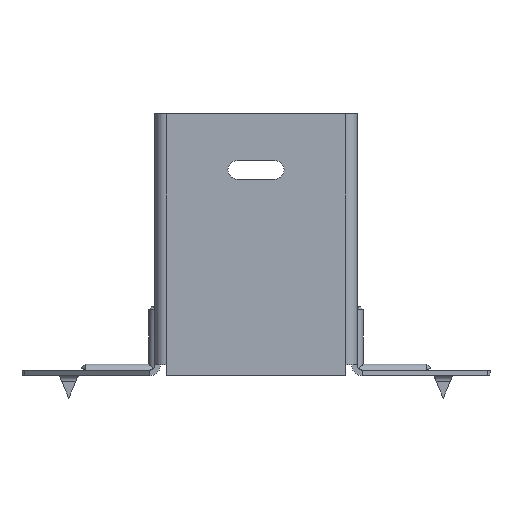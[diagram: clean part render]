
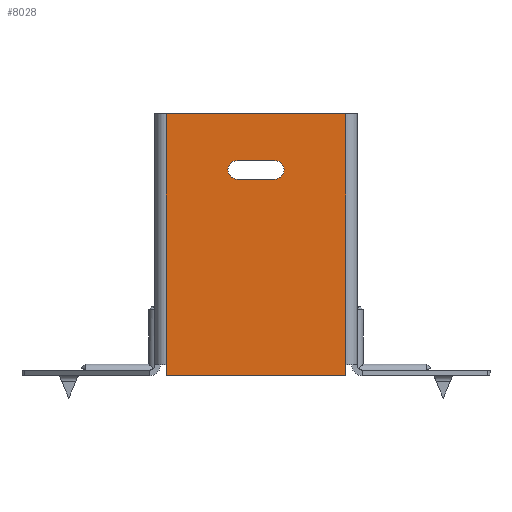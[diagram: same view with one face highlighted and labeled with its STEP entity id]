
A CAD part, front view. The second image highlights one B-rep face of the part: STEP entity #8028.
In plain terms, the highlighted planar face has unit normal (0, -1, 0).
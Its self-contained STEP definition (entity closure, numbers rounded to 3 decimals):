
#39 = CARTESIAN_POINT ( 'NONE',  ( -5., 0., -12.5 ) ) ;
#114 = DIRECTION ( 'NONE',  ( 0., 1., 0. ) ) ;
#612 = EDGE_CURVE ( 'NONE', #8655, #3666, #3308, .T. ) ;
#661 = ORIENTED_EDGE ( 'NONE', *, *, #5915, .T. ) ;
#686 = LINE ( 'NONE', #3303, #7141 ) ;
#738 = CARTESIAN_POINT ( 'NONE',  ( -24., 0., -67. ) ) ;
#818 = CIRCLE ( 'NONE', #2320, 2.5 ) ;
#905 = DIRECTION ( 'NONE',  ( 0., 0., 1. ) ) ;
#1024 = DIRECTION ( 'NONE',  ( -1., 0., 0. ) ) ;
#1336 = CARTESIAN_POINT ( 'NONE',  ( 24., 0., -70. ) ) ;
#1395 = DIRECTION ( 'NONE',  ( 0., 1., 0. ) ) ;
#1997 = VERTEX_POINT ( 'NONE', #5590 ) ;
#2102 = EDGE_CURVE ( 'NONE', #7877, #3666, #9401, .T. ) ;
#2320 = AXIS2_PLACEMENT_3D ( 'NONE', #5241, #7600, #3831 ) ;
#2349 = EDGE_CURVE ( 'NONE', #7877, #9394, #6104, .T. ) ;
#2351 = PLANE ( 'NONE',  #5216 ) ;
#2426 = CARTESIAN_POINT ( 'NONE',  ( 5., 0., -17.5 ) ) ;
#2452 = EDGE_CURVE ( 'NONE', #4969, #3529, #5746, .T. ) ;
#2479 = ORIENTED_EDGE ( 'NONE', *, *, #7053, .T. ) ;
#2520 = CARTESIAN_POINT ( 'NONE',  ( 5., 0., -12.5 ) ) ;
#2522 = ORIENTED_EDGE ( 'NONE', *, *, #3747, .T. ) ;
#2574 = VECTOR ( 'NONE', #1024, 1000. ) ;
#2668 = VECTOR ( 'NONE', #6858, 1000. ) ;
#2869 = ORIENTED_EDGE ( 'NONE', *, *, #5306, .T. ) ;
#2943 = CARTESIAN_POINT ( 'NONE',  ( 24., 0., -70. ) ) ;
#3034 = CARTESIAN_POINT ( 'NONE',  ( 24., 0., -70. ) ) ;
#3222 = FACE_OUTER_BOUND ( 'NONE', #9644, .T. ) ;
#3303 = CARTESIAN_POINT ( 'NONE',  ( -24., 0., 0. ) ) ;
#3308 = LINE ( 'NONE', #2943, #6620 ) ;
#3361 = CARTESIAN_POINT ( 'NONE',  ( -25.5, 0., -70. ) ) ;
#3364 = CARTESIAN_POINT ( 'NONE',  ( -25.5, 0., 0. ) ) ;
#3529 = VERTEX_POINT ( 'NONE', #9373 ) ;
#3557 = ORIENTED_EDGE ( 'NONE', *, *, #2102, .F. ) ;
#3606 = VERTEX_POINT ( 'NONE', #6435 ) ;
#3666 = VERTEX_POINT ( 'NONE', #8905 ) ;
#3747 = EDGE_CURVE ( 'NONE', #6094, #3606, #8895, .T. ) ;
#3831 = DIRECTION ( 'NONE',  ( 0., 0., 1. ) ) ;
#4161 = DIRECTION ( 'NONE',  ( 1., 0., 0. ) ) ;
#4232 = CIRCLE ( 'NONE', #9610, 2.5 ) ;
#4400 = CARTESIAN_POINT ( 'NONE',  ( -5., 0., -15. ) ) ;
#4728 = DIRECTION ( 'NONE',  ( 0., 0., -1. ) ) ;
#4807 = ORIENTED_EDGE ( 'NONE', *, *, #7714, .T. ) ;
#4893 = EDGE_CURVE ( 'NONE', #3606, #1997, #4232, .T. ) ;
#4926 = VECTOR ( 'NONE', #905, 1000. ) ;
#4969 = VERTEX_POINT ( 'NONE', #1336 ) ;
#5044 = VECTOR ( 'NONE', #6735, 1000. ) ;
#5060 = DIRECTION ( 'NONE',  ( 0., 0., 1. ) ) ;
#5216 = AXIS2_PLACEMENT_3D ( 'NONE', #5402, #114, #6083 ) ;
#5241 = CARTESIAN_POINT ( 'NONE',  ( 5., 0., -15. ) ) ;
#5306 = EDGE_CURVE ( 'NONE', #4969, #8655, #6586, .T. ) ;
#5402 = CARTESIAN_POINT ( 'NONE',  ( 0., 0., 0. ) ) ;
#5590 = CARTESIAN_POINT ( 'NONE',  ( -5., 0., -12.5 ) ) ;
#5683 = CARTESIAN_POINT ( 'NONE',  ( 24., 0., -67. ) ) ;
#5746 = LINE ( 'NONE', #3361, #2574 ) ;
#5915 = EDGE_CURVE ( 'NONE', #6205, #6094, #818, .T. ) ;
#6083 = DIRECTION ( 'NONE',  ( 0., 0., 1. ) ) ;
#6094 = VERTEX_POINT ( 'NONE', #2426 ) ;
#6104 = LINE ( 'NONE', #7463, #5044 ) ;
#6111 = VECTOR ( 'NONE', #4161, 1000. ) ;
#6205 = VERTEX_POINT ( 'NONE', #2520 ) ;
#6435 = CARTESIAN_POINT ( 'NONE',  ( -5., 0., -17.5 ) ) ;
#6586 = LINE ( 'NONE', #3034, #4926 ) ;
#6620 = VECTOR ( 'NONE', #6767, 1000. ) ;
#6735 = DIRECTION ( 'NONE',  ( 0., 0., -1. ) ) ;
#6767 = DIRECTION ( 'NONE',  ( 0., 0., 1. ) ) ;
#6858 = DIRECTION ( 'NONE',  ( -1., 0., 0. ) ) ;
#7035 = VECTOR ( 'NONE', #7612, 1000. ) ;
#7053 = EDGE_CURVE ( 'NONE', #1997, #6205, #9007, .T. ) ;
#7132 = FACE_BOUND ( 'NONE', #9662, .T. ) ;
#7141 = VECTOR ( 'NONE', #4728, 1000. ) ;
#7463 = CARTESIAN_POINT ( 'NONE',  ( -24., 0., 0. ) ) ;
#7521 = ORIENTED_EDGE ( 'NONE', *, *, #4893, .T. ) ;
#7600 = DIRECTION ( 'NONE',  ( 0., 1., 0. ) ) ;
#7612 = DIRECTION ( 'NONE',  ( 1., 0., 0. ) ) ;
#7617 = CARTESIAN_POINT ( 'NONE',  ( -5., 0., -17.5 ) ) ;
#7714 = EDGE_CURVE ( 'NONE', #9394, #3529, #686, .T. ) ;
#7877 = VERTEX_POINT ( 'NONE', #8640 ) ;
#8028 = ADVANCED_FACE ( 'NONE', ( #7132, #3222 ), #2351, .F. ) ;
#8494 = ORIENTED_EDGE ( 'NONE', *, *, #612, .T. ) ;
#8640 = CARTESIAN_POINT ( 'NONE',  ( -24., 0., 0. ) ) ;
#8655 = VERTEX_POINT ( 'NONE', #5683 ) ;
#8731 = ORIENTED_EDGE ( 'NONE', *, *, #2349, .T. ) ;
#8895 = LINE ( 'NONE', #7617, #2668 ) ;
#8905 = CARTESIAN_POINT ( 'NONE',  ( 24., 0., 0. ) ) ;
#9007 = LINE ( 'NONE', #39, #7035 ) ;
#9296 = ORIENTED_EDGE ( 'NONE', *, *, #2452, .F. ) ;
#9373 = CARTESIAN_POINT ( 'NONE',  ( -24., 0., -70. ) ) ;
#9394 = VERTEX_POINT ( 'NONE', #738 ) ;
#9401 = LINE ( 'NONE', #3364, #6111 ) ;
#9610 = AXIS2_PLACEMENT_3D ( 'NONE', #4400, #1395, #5060 ) ;
#9644 = EDGE_LOOP ( 'NONE', ( #8731, #4807, #9296, #2869, #8494, #3557 ) ) ;
#9662 = EDGE_LOOP ( 'NONE', ( #2522, #7521, #2479, #661 ) ) ;
